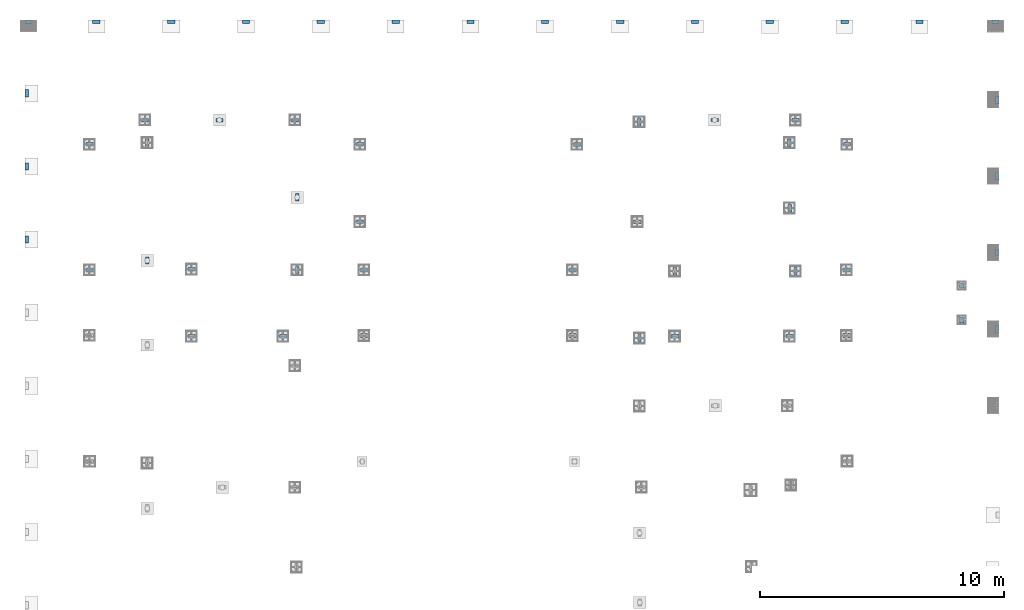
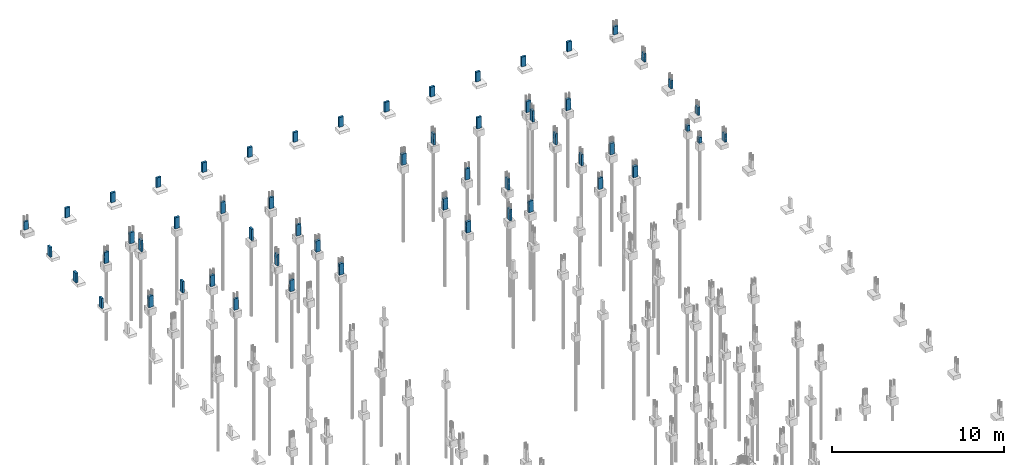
# One storey, part 4 of 119: 56 columns.
"""IFC4 building model written with IfcOpenShell, lengths in centimetres."""

from ifc_helpers import new_model, si_unit, derived_unit, frame, origin_with_axes, origin_2d_with_axis, place, context, project, spatial, rectangle, extrude, material, element, save


model = new_model("IFC4")

# Units and contexts
model_context = context("Model", 3, precision=1e-05, world=origin_with_axes(), identifier="Body")
ifc_project = project(units=[si_unit("LENGTHUNIT", "METRE", prefix="CENTI"), si_unit("VOLUMEUNIT", "CUBIC_METRE"), si_unit("AREAUNIT", "SQUARE_METRE"), si_unit("POWERUNIT", "WATT"), si_unit("LUMINOUSFLUXUNIT", "LUMEN"), si_unit("ELECTRICCURRENTUNIT", "AMPERE"), si_unit("PRESSUREUNIT", "PASCAL", prefix="KILO"), si_unit("MASSUNIT", "GRAM", prefix="KILO"), si_unit("PLANEANGLEUNIT", "RADIAN"), derived_unit("VOLUMETRICFLOWRATEUNIT", [(si_unit("LENGTHUNIT", "METRE"), 3), (si_unit("TIMEUNIT", "SECOND"), -1)])], contexts=[model_context])

# Site, building, storey
site_placement = place(None, frame((-4000.0, 0.0, 0.0), z_axis=(0.0, 0.0, 1.0), x_axis=(1.0, 0.0, 0.0)))
site = spatial("IfcSite", under=ifc_project, at=site_placement, Name="PADRÃO")
building_placement = place(site_placement, frame((0.0, 0.0, -14.0)))
building = spatial("IfcBuilding", under=site, at=building_placement, Name="CRECHE PRÉ-ESCOLA TIPO 2")
storey_placement = place(building_placement, origin_with_axes())
storey = spatial("IfcBuildingStorey", under=building, at=storey_placement, Name="FUNDAÇÃO", CompositionType="ELEMENT", Elevation=-14.0)

# Columns
ifc_material = material(Name="Concreto")
column_1_placement = place(storey_placement, frame((16.5, 4488.5, 0.0), z_axis=(0.0, 0.0, 1.0), x_axis=(1.0, 0.0, 0.0)))
element("IfcColumn", 1, at=column_1_placement, inside=storey, material=ifc_material, Name="P1", context=model_context, shape_type="SolidModel", body=[
    extrude(rectangle(XDim=14.0, YDim=30.0, at=origin_2d_with_axis()), frame((0.0, 0.0, -59.0), z_axis=(0.0, 0.0, 1.0), x_axis=(0.0, -1.0, 0.0)), (0.0, 0.0, 1.0), 59.0),
])
for number, where, z_axis, x_axis, name in (
    (2, (2751.0, 4488.5, 0.0), (0.0, 0.0, 1.0), (1.0, 0.0, 0.0), "P10"),
    (3, (3058.0, 4488.12, 0.0), (0.0, 0.0, 1.0), (1.0, 0.0, 0.0), "P11"),
    (4, (3365.0, 4488.0, 0.0), (0.0, 0.0, 1.0), (1.0, 0.0, 0.0), "P12"),
    (5, (3672.0, 4488.0, 0.0), (0.0, 0.0, 1.0), (1.0, 0.0, 0.0), "P13"),
):
    element("IfcColumn", number, at=place(storey_placement, frame(where, z_axis=z_axis, x_axis=x_axis)), inside=storey, material=ifc_material, Name=name, context=model_context, shape_type="SolidModel", body=[
        extrude(rectangle(XDim=14.0, YDim=30.0, at=origin_2d_with_axis()), frame((0.0, 0.0, -69.0), z_axis=(0.0, 0.0, 1.0), x_axis=(0.0, -1.0, 0.0)), (0.0, 0.0, 1.0), 69.0),
    ])
column_2_placement = place(storey_placement, frame((3984.0, 4488.0, 0.0), z_axis=(0.0, 0.0, 1.0), x_axis=(1.0, 0.0, 0.0)))
element("IfcColumn", 6, at=column_2_placement, inside=storey, material=ifc_material, Name="P14", context=model_context, shape_type="SolidModel", body=[
    extrude(rectangle(XDim=14.0, YDim=30.0, at=origin_2d_with_axis()), frame((0.0, 0.0, -59.0), z_axis=(0.0, 0.0, 1.0), x_axis=(0.0, -1.0, 0.0)), (0.0, 0.0, 1.0), 59.0),
])
column_3_placement = place(storey_placement, frame((8.5, 4194.5, 0.0), z_axis=(0.0, 0.0, 1.0), x_axis=(1.0, 0.0, 0.0)))
element("IfcColumn", 7, at=column_3_placement, inside=storey, material=ifc_material, Name="P15", context=model_context, shape_type="SolidModel", body=[
    extrude(rectangle(XDim=14.0, YDim=30.0, at=origin_2d_with_axis()), frame((0.0, 0.0, -69.0), z_axis=(0.0, 0.0, 1.0), x_axis=(1.0, 0.0, 0.0)), (0.0, 0.0, 1.0), 69.0),
])
column_4_placement = place(storey_placement, frame((3992.0, 4168.5, 0.0), z_axis=(0.0, 0.0, 1.0), x_axis=(1.0, 0.0, 0.0)))
element("IfcColumn", 8, at=column_4_placement, inside=storey, material=ifc_material, Name="P16", context=model_context, shape_type="SolidModel", body=[
    extrude(rectangle(XDim=14.0, YDim=30.0, at=origin_2d_with_axis()), frame((0.0, 0.0, -59.0), z_axis=(0.0, 0.0, 1.0), x_axis=(-1.0, 0.0, 0.0)), (0.0, 0.0, 1.0), 59.0),
])
column_5_placement = place(storey_placement, frame((494.67, 4085.0, 0.0), z_axis=(0.0, 0.0, 1.0), x_axis=(1.0, 0.0, 0.0)))
element("IfcColumn", 9, at=column_5_placement, inside=storey, material=ifc_material, Name="P17", context=model_context, shape_type="SolidModel", body=[
    extrude(rectangle(XDim=14.0, YDim=30.0, at=origin_2d_with_axis()), frame((0.0, 0.0, -80.0), z_axis=(0.0, 0.0, 1.0), x_axis=(0.0, 1.0, 0.0)), (0.0, 0.0, 1.0), 80.0),
])
for number, where, z_axis, x_axis, name in (
    (10, (799.85, 4085.0, 0.0), (0.0, 0.0, 1.0), (1.0, 0.0, 0.0), "P18"),
    (11, (1109.71, 4085.0, 0.0), (0.0, 0.0, 1.0), (1.0, 0.0, 0.0), "P19"),
):
    element("IfcColumn", number, at=place(storey_placement, frame(where, z_axis=z_axis, x_axis=x_axis)), inside=storey, material=ifc_material, Name=name, context=model_context, shape_type="SolidModel", body=[
        extrude(rectangle(XDim=14.0, YDim=30.0, at=origin_2d_with_axis()), frame((0.0, 0.0, -80.0), z_axis=(0.0, 0.0, 1.0), x_axis=(0.0, -1.0, 0.0)), (0.0, 0.0, 1.0), 80.0),
    ])
column_6_placement = place(storey_placement, frame((295.0, 4488.5, 0.0), z_axis=(0.0, 0.0, 1.0), x_axis=(1.0, 0.0, 0.0)))
element("IfcColumn", 12, at=column_6_placement, inside=storey, material=ifc_material, Name="P2", context=model_context, shape_type="SolidModel", body=[
    extrude(rectangle(XDim=14.0, YDim=30.0, at=origin_2d_with_axis()), frame((0.0, 0.0, -69.0), z_axis=(0.0, 0.0, 1.0), x_axis=(0.0, -1.0, 0.0)), (0.0, 0.0, 1.0), 69.0),
])
column_7_placement = place(storey_placement, frame((2522.5, 4077.02, 0.0), z_axis=(0.0, 0.0, 1.0), x_axis=(1.0, 0.0, 0.0)))
element("IfcColumn", 13, at=column_7_placement, inside=storey, material=ifc_material, Name="P20", context=model_context, shape_type="SolidModel", body=[
    extrude(rectangle(XDim=14.0, YDim=30.0, at=origin_2d_with_axis()), frame((0.0, 0.0, -80.0), z_axis=(0.0, 0.0, 1.0), x_axis=(1.0, 0.0, 0.0)), (0.0, 0.0, 1.0), 80.0),
])
for number, where, z_axis, x_axis, name in (
    (14, (2831.98, 4085.02, 0.0), (0.0, 0.0, 1.0), (1.0, 0.0, 0.0), "P21"),
    (15, (3163.5, 4084.02, 0.0), (0.0, 0.0, 1.0), (1.0, 0.0, 0.0), "P22"),
    (16, (267.0, 3985.0, 0.0), (0.0, 0.0, 1.0), (1.0, 0.0, 0.0), "P23"),
):
    element("IfcColumn", number, at=place(storey_placement, frame(where, z_axis=z_axis, x_axis=x_axis)), inside=storey, material=ifc_material, Name=name, context=model_context, shape_type="SolidModel", body=[
        extrude(rectangle(XDim=14.0, YDim=30.0, at=origin_2d_with_axis()), frame((0.0, 0.0, -80.0), z_axis=(0.0, 0.0, 1.0), x_axis=(0.0, -1.0, 0.0)), (0.0, 0.0, 1.0), 80.0),
    ])
column_8_placement = place(storey_placement, frame((503.67, 3991.5, 0.0), z_axis=(0.0, 0.0, 1.0), x_axis=(1.0, 0.0, 0.0)))
element("IfcColumn", 17, at=column_8_placement, inside=storey, material=ifc_material, Name="P24", context=model_context, shape_type="SolidModel", body=[
    extrude(rectangle(XDim=14.0, YDim=30.0, at=origin_2d_with_axis()), frame((0.0, 0.0, -80.0), z_axis=(0.0, 0.0, 1.0), x_axis=(1.0, 0.0, 0.0)), (0.0, 0.0, 1.0), 80.0),
])
column_9_placement = place(storey_placement, frame((1376.84, 3985.0, 0.0), z_axis=(0.0, 0.0, 1.0), x_axis=(1.0, 0.0, 0.0)))
element("IfcColumn", 18, at=column_9_placement, inside=storey, material=ifc_material, Name="P25", context=model_context, shape_type="SolidModel", body=[
    extrude(rectangle(XDim=14.0, YDim=30.0, at=origin_2d_with_axis()), frame((0.0, 0.0, -80.0), z_axis=(0.0, 0.0, 1.0), x_axis=(0.0, -1.0, 0.0)), (0.0, 0.0, 1.0), 80.0),
])
column_10_placement = place(storey_placement, frame((2266.76, 3985.0, 0.0), z_axis=(0.0, 0.0, 1.0), x_axis=(1.0, 0.0, 0.0)))
element("IfcColumn", 19, at=column_10_placement, inside=storey, material=ifc_material, Name="P26", context=model_context, shape_type="SolidModel", body=[
    extrude(rectangle(XDim=17.0, YDim=30.0, at=origin_2d_with_axis()), frame((0.0, 0.0, -80.0), z_axis=(0.0, 0.0, 1.0), x_axis=(0.0, -1.0, 0.0)), (0.0, 0.0, 1.0), 80.0),
])
column_11_placement = place(storey_placement, frame((3138.5, 3991.51, 0.0), z_axis=(0.0, 0.0, 1.0), x_axis=(1.0, 0.0, 0.0)))
element("IfcColumn", 20, at=column_11_placement, inside=storey, material=ifc_material, Name="P27", context=model_context, shape_type="SolidModel", body=[
    extrude(rectangle(XDim=14.0, YDim=30.0, at=origin_2d_with_axis()), frame((0.0, 0.0, -80.0), z_axis=(0.0, 0.0, 1.0), x_axis=(1.0, 0.0, 0.0)), (0.0, 0.0, 1.0), 80.0),
])
column_12_placement = place(storey_placement, frame((3375.0, 3985.01, 0.0), z_axis=(0.0, 0.0, 1.0), x_axis=(1.0, 0.0, 0.0)))
element("IfcColumn", 21, at=column_12_placement, inside=storey, material=ifc_material, Name="P28", context=model_context, shape_type="SolidModel", body=[
    extrude(rectangle(XDim=14.0, YDim=30.0, at=origin_2d_with_axis()), frame((0.0, 0.0, -80.0), z_axis=(0.0, 0.0, 1.0), x_axis=(0.0, -1.0, 0.0)), (0.0, 0.0, 1.0), 80.0),
])
column_13_placement = place(storey_placement, frame((8.5, 3894.5, 0.0), z_axis=(0.0, 0.0, 1.0), x_axis=(1.0, 0.0, 0.0)))
element("IfcColumn", 22, at=column_13_placement, inside=storey, material=ifc_material, Name="P29", context=model_context, shape_type="SolidModel", body=[
    extrude(rectangle(XDim=14.0, YDim=30.0, at=origin_2d_with_axis()), frame((0.0, 0.0, -69.0), z_axis=(0.0, 0.0, 1.0), x_axis=(1.0, 0.0, 0.0)), (0.0, 0.0, 1.0), 69.0),
])
column_14_placement = place(storey_placement, frame((602.0, 4488.45, 0.0), z_axis=(0.0, 0.0, 1.0), x_axis=(1.0, 0.0, 0.0)))
element("IfcColumn", 23, at=column_14_placement, inside=storey, material=ifc_material, Name="P3", context=model_context, shape_type="SolidModel", body=[
    extrude(rectangle(XDim=14.0, YDim=30.0, at=origin_2d_with_axis()), frame((0.0, 0.0, -69.0), z_axis=(0.0, 0.0, 1.0), x_axis=(0.0, -1.0, 0.0)), (0.0, 0.0, 1.0), 69.0),
])
column_15_placement = place(storey_placement, frame((3992.0, 3855.0, 0.0), z_axis=(0.0, 0.0, 1.0), x_axis=(1.0, 0.0, 0.0)))
element("IfcColumn", 24, at=column_15_placement, inside=storey, material=ifc_material, Name="P30", context=model_context, shape_type="SolidModel", body=[
    extrude(rectangle(XDim=14.0, YDim=30.0, at=origin_2d_with_axis()), frame((0.0, 0.0, -59.0), z_axis=(0.0, 0.0, 1.0), x_axis=(-1.0, 0.0, 0.0)), (0.0, 0.0, 1.0), 59.0),
])
for number, where, z_axis, x_axis, name in (
    (25, (1118.72, 3767.78, 0.0), (0.0, 0.0, 1.0), (1.0, 0.0, 0.0), "P31"),
    (26, (3139.43, 3723.26, 0.0), (0.0, 0.0, 1.0), (1.0, 0.0, 0.0), "P32"),
):
    element("IfcColumn", number, at=place(storey_placement, frame(where, z_axis=z_axis, x_axis=x_axis)), inside=storey, material=ifc_material, Name=name, context=model_context, shape_type="SolidModel", body=[
        extrude(rectangle(XDim=14.0, YDim=30.0, at=origin_2d_with_axis()), frame((0.0, 0.0, -80.0), z_axis=(0.0, 0.0, 1.0), x_axis=(1.0, 0.0, 0.0)), (0.0, 0.0, 1.0), 80.0),
    ])
column_16_placement = place(storey_placement, frame((1376.84, 3667.5, 0.0), z_axis=(0.0, 0.0, 1.0), x_axis=(1.0, 0.0, 0.0)))
element("IfcColumn", 27, at=column_16_placement, inside=storey, material=ifc_material, Name="P33", context=model_context, shape_type="SolidModel", body=[
    extrude(rectangle(XDim=14.0, YDim=30.0, at=origin_2d_with_axis()), frame((0.0, 0.0, -80.0), z_axis=(0.0, 0.0, 1.0), x_axis=(0.0, 1.0, 0.0)), (0.0, 0.0, 1.0), 80.0),
])
column_17_placement = place(storey_placement, frame((2514.5, 3667.75, 0.0), z_axis=(0.0, 0.0, 1.0), x_axis=(1.0, 0.0, 0.0)))
element("IfcColumn", 28, at=column_17_placement, inside=storey, material=ifc_material, Name="P34", context=model_context, shape_type="SolidModel", body=[
    extrude(rectangle(XDim=14.0, YDim=30.0, at=origin_2d_with_axis()), frame((0.0, 0.0, -80.0), z_axis=(0.0, 0.0, 1.0), x_axis=(0.0, -1.0, 0.0)), (0.0, 0.0, 1.0), 80.0),
])
column_18_placement = place(storey_placement, frame((8.5, 3594.5, 0.0), z_axis=(0.0, 0.0, 1.0), x_axis=(1.0, 0.0, 0.0)))
element("IfcColumn", 29, at=column_18_placement, inside=storey, material=ifc_material, Name="P35", context=model_context, shape_type="SolidModel", body=[
    extrude(rectangle(XDim=14.0, YDim=30.0, at=origin_2d_with_axis()), frame((0.0, 0.0, -69.0), z_axis=(0.0, 0.0, 1.0), x_axis=(1.0, 0.0, 0.0)), (0.0, 0.0, 1.0), 69.0),
])
column_19_placement = place(storey_placement, frame((267.01, 3470.0, 0.0), z_axis=(0.0, 0.0, 1.0), x_axis=(1.0, 0.0, 0.0)))
element("IfcColumn", 30, at=column_19_placement, inside=storey, material=ifc_material, Name="P36", context=model_context, shape_type="SolidModel", body=[
    extrude(rectangle(XDim=17.0, YDim=30.0, at=origin_2d_with_axis()), frame((0.0, 0.0, -80.0), z_axis=(0.0, 0.0, 1.0), x_axis=(0.0, -1.0, 0.0)), (0.0, 0.0, 1.0), 80.0),
])
column_20_placement = place(storey_placement, frame((503.67, 3508.5, 0.0), z_axis=(0.0, 0.0, 1.0), x_axis=(1.0, 0.0, 0.0)))
element("IfcColumn", 31, at=column_20_placement, inside=storey, material=ifc_material, Name="P37", context=model_context, shape_type="SolidModel", body=[
    extrude(rectangle(XDim=14.0, YDim=30.0, at=origin_2d_with_axis()), frame((0.0, 0.0, -80.0), z_axis=(0.0, 0.0, 1.0), x_axis=(1.0, 0.0, 0.0)), (0.0, 0.0, 1.0), 80.0),
])
column_21_placement = place(storey_placement, frame((3992.0, 3541.5, 0.0), z_axis=(0.0, 0.0, 1.0), x_axis=(1.0, 0.0, 0.0)))
element("IfcColumn", 32, at=column_21_placement, inside=storey, material=ifc_material, Name="P38", context=model_context, shape_type="SolidModel", body=[
    extrude(rectangle(XDim=14.0, YDim=30.0, at=origin_2d_with_axis()), frame((0.0, 0.0, -59.0), z_axis=(0.0, 0.0, 1.0), x_axis=(-1.0, 0.0, 0.0)), (0.0, 0.0, 1.0), 59.0),
])
column_22_placement = place(storey_placement, frame((685.0, 3472.49, 0.0), z_axis=(0.0, 0.0, 1.0), x_axis=(1.0, 0.0, 0.0)))
element("IfcColumn", 33, at=column_22_placement, inside=storey, material=ifc_material, Name="P39", context=model_context, shape_type="SolidModel", body=[
    extrude(rectangle(XDim=14.0, YDim=30.0, at=origin_2d_with_axis()), frame((0.0, 0.0, -80.0), z_axis=(0.0, 0.0, 1.0), x_axis=(0.0, -1.0, 0.0)), (0.0, 0.0, 1.0), 80.0),
])
column_23_placement = place(storey_placement, frame((909.0, 4488.5, 0.0), z_axis=(0.0, 0.0, 1.0), x_axis=(1.0, 0.0, 0.0)))
element("IfcColumn", 34, at=column_23_placement, inside=storey, material=ifc_material, Name="P4", context=model_context, shape_type="SolidModel", body=[
    extrude(rectangle(XDim=14.0, YDim=30.0, at=origin_2d_with_axis()), frame((0.0, 0.0, -69.0), z_axis=(0.0, 0.0, 1.0), x_axis=(0.0, -1.0, 0.0)), (0.0, 0.0, 1.0), 69.0),
])
column_24_placement = place(storey_placement, frame((1118.72, 3470.0, 0.0), z_axis=(0.0, 0.0, 1.0), x_axis=(1.0, 0.0, 0.0)))
element("IfcColumn", 35, at=column_24_placement, inside=storey, material=ifc_material, Name="P40", context=model_context, shape_type="SolidModel", body=[
    extrude(rectangle(XDim=14.0, YDim=30.0, at=origin_2d_with_axis()), frame((0.0, 0.0, -80.0), z_axis=(0.0, 0.0, 1.0), x_axis=(1.0, 0.0, 0.0)), (0.0, 0.0, 1.0), 80.0),
])
for number, where, z_axis, x_axis, name in (
    (36, (1392.84, 3470.02, 0.0), (0.0, 0.0, 1.0), (1.0, 0.0, 0.0), "P41"),
    (37, (2248.76, 3470.02, 0.0), (0.0, 0.0, 1.0), (1.0, 0.0, 0.0), "P42"),
):
    element("IfcColumn", number, at=place(storey_placement, frame(where, z_axis=z_axis, x_axis=x_axis)), inside=storey, material=ifc_material, Name=name, context=model_context, shape_type="SolidModel", body=[
        extrude(rectangle(XDim=17.0, YDim=30.0, at=origin_2d_with_axis()), frame((0.0, 0.0, -80.0), z_axis=(0.0, 0.0, 1.0), x_axis=(0.0, -1.0, 0.0)), (0.0, 0.0, 1.0), 80.0),
    ])
for number, where, z_axis, x_axis, name in (
    (38, (2668.0, 3464.58, 0.0), (0.0, 0.0, 1.0), (1.0, 0.0, 0.0), "P43"),
    (39, (3163.5, 3464.58, 0.0), (0.0, 0.0, 1.0), (1.0, 0.0, 0.0), "P44"),
):
    element("IfcColumn", number, at=place(storey_placement, frame(where, z_axis=z_axis, x_axis=x_axis)), inside=storey, material=ifc_material, Name=name, context=model_context, shape_type="SolidModel", body=[
        extrude(rectangle(XDim=14.0, YDim=30.0, at=origin_2d_with_axis()), frame((0.0, 0.0, -80.0), z_axis=(0.0, 0.0, 1.0), x_axis=(1.0, 0.0, 0.0)), (0.0, 0.0, 1.0), 80.0),
    ])
column_25_placement = place(storey_placement, frame((3372.5, 3470.02, 0.0), z_axis=(0.0, 0.0, 1.0), x_axis=(1.0, 0.0, 0.0)))
element("IfcColumn", 40, at=column_25_placement, inside=storey, material=ifc_material, Name="P45", context=model_context, shape_type="SolidModel", body=[
    extrude(rectangle(XDim=17.0, YDim=30.0, at=origin_2d_with_axis()), frame((0.0, 0.0, -80.0), z_axis=(0.0, 0.0, 1.0), x_axis=(0.0, -1.0, 0.0)), (0.0, 0.0, 1.0), 80.0),
])
column_26_placement = place(storey_placement, frame((685.0, 3197.49, 0.0), z_axis=(0.0, 0.0, 1.0), x_axis=(1.0, 0.0, 0.0)))
element("IfcColumn", 41, at=column_26_placement, inside=storey, material=ifc_material, Name="P49", context=model_context, shape_type="SolidModel", body=[
    extrude(rectangle(XDim=14.0, YDim=30.0, at=origin_2d_with_axis()), frame((0.0, 0.0, -80.0), z_axis=(0.0, 0.0, 1.0), x_axis=(0.0, -1.0, 0.0)), (0.0, 0.0, 1.0), 80.0),
])
column_27_placement = place(storey_placement, frame((1216.0, 4488.5, 0.0), z_axis=(0.0, 0.0, 1.0), x_axis=(1.0, 0.0, 0.0)))
element("IfcColumn", 42, at=column_27_placement, inside=storey, material=ifc_material, Name="P5", context=model_context, shape_type="SolidModel", body=[
    extrude(rectangle(XDim=14.0, YDim=30.0, at=origin_2d_with_axis()), frame((0.0, 0.0, -69.0), z_axis=(0.0, 0.0, 1.0), x_axis=(0.0, -1.0, 0.0)), (0.0, 0.0, 1.0), 69.0),
])
column_28_placement = place(storey_placement, frame((1061.0, 3197.49, 0.0), z_axis=(0.0, 0.0, 1.0), x_axis=(1.0, 0.0, 0.0)))
element("IfcColumn", 43, at=column_28_placement, inside=storey, material=ifc_material, Name="P50", context=model_context, shape_type="SolidModel", body=[
    extrude(rectangle(XDim=14.0, YDim=30.0, at=origin_2d_with_axis()), frame((0.0, 0.0, -80.0), z_axis=(0.0, 0.0, 1.0), x_axis=(0.0, -1.0, 0.0)), (0.0, 0.0, 1.0), 80.0),
])
for number, where, z_axis, x_axis, name in (
    (44, (1393.25, 3200.02, 0.0), (0.0, 0.0, 1.0), (1.0, 0.0, 0.0), "P51"),
    (45, (2248.76, 3200.02, 0.0), (0.0, 0.0, 1.0), (1.0, 0.0, 0.0), "P52"),
):
    element("IfcColumn", number, at=place(storey_placement, frame(where, z_axis=z_axis, x_axis=x_axis)), inside=storey, material=ifc_material, Name=name, context=model_context, shape_type="SolidModel", body=[
        extrude(rectangle(XDim=17.0, YDim=30.0, at=origin_2d_with_axis()), frame((0.0, 0.0, -80.0), z_axis=(0.0, 0.0, 1.0), x_axis=(0.0, -1.0, 0.0)), (0.0, 0.0, 1.0), 80.0),
    ])
column_29_placement = place(storey_placement, frame((2523.5, 3189.52, 0.0), z_axis=(0.0, 0.0, 1.0), x_axis=(1.0, 0.0, 0.0)))
element("IfcColumn", 46, at=column_29_placement, inside=storey, material=ifc_material, Name="P53", context=model_context, shape_type="SolidModel", body=[
    extrude(rectangle(XDim=14.0, YDim=30.0, at=origin_2d_with_axis()), frame((0.0, 0.0, -80.0), z_axis=(0.0, 0.0, 1.0), x_axis=(1.0, 0.0, 0.0)), (0.0, 0.0, 1.0), 80.0),
])
for number, where, z_axis, x_axis, name in (
    (47, (2668.0, 3197.52, 0.0), (0.0, 0.0, 1.0), (1.0, 0.0, 0.0), "P54"),
    (48, (3138.5, 3197.52, 0.0), (0.0, 0.0, 1.0), (1.0, 0.0, 0.0), "P55"),
):
    element("IfcColumn", number, at=place(storey_placement, frame(where, z_axis=z_axis, x_axis=x_axis)), inside=storey, material=ifc_material, Name=name, context=model_context, shape_type="SolidModel", body=[
        extrude(rectangle(XDim=14.0, YDim=30.0, at=origin_2d_with_axis()), frame((0.0, 0.0, -80.0), z_axis=(0.0, 0.0, 1.0), x_axis=(0.0, -1.0, 0.0)), (0.0, 0.0, 1.0), 80.0),
    ])
column_30_placement = place(storey_placement, frame((3372.5, 3200.02, 0.0), z_axis=(0.0, 0.0, 1.0), x_axis=(1.0, 0.0, 0.0)))
element("IfcColumn", 49, at=column_30_placement, inside=storey, material=ifc_material, Name="P56", context=model_context, shape_type="SolidModel", body=[
    extrude(rectangle(XDim=17.0, YDim=30.0, at=origin_2d_with_axis()), frame((0.0, 0.0, -80.0), z_axis=(0.0, 0.0, 1.0), x_axis=(0.0, -1.0, 0.0)), (0.0, 0.0, 1.0), 80.0),
])
column_31_placement = place(storey_placement, frame((3992.0, 3228.0, 0.0), z_axis=(0.0, 0.0, 1.0), x_axis=(1.0, 0.0, 0.0)))
element("IfcColumn", 50, at=column_31_placement, inside=storey, material=ifc_material, Name="P57", context=model_context, shape_type="SolidModel", body=[
    extrude(rectangle(XDim=14.0, YDim=30.0, at=origin_2d_with_axis()), frame((0.0, 0.0, -59.0), z_axis=(0.0, 0.0, 1.0), x_axis=(-1.0, 0.0, 0.0)), (0.0, 0.0, 1.0), 59.0),
])
for number, where, z_axis, x_axis, name in (
    (51, (1523.0, 4488.33, 0.0), (0.0, 0.0, 1.0), (1.0, 0.0, 0.0), "P6"),
    (52, (1830.0, 4488.5, 0.0), (0.0, 0.0, 1.0), (1.0, 0.0, 0.0), "P7"),
    (53, (2135.99, 4488.5, 0.0), (0.0, 0.0, 1.0), (1.0, 0.0, 0.0), "P8"),
    (54, (2444.0, 4488.19, 0.0), (0.0, 0.0, 1.0), (1.0, 0.0, 0.0), "P9"),
):
    element("IfcColumn", number, at=place(storey_placement, frame(where, z_axis=z_axis, x_axis=x_axis)), inside=storey, material=ifc_material, Name=name, context=model_context, shape_type="SolidModel", body=[
        extrude(rectangle(XDim=14.0, YDim=30.0, at=origin_2d_with_axis()), frame((0.0, 0.0, -69.0), z_axis=(0.0, 0.0, 1.0), x_axis=(0.0, -1.0, 0.0)), (0.0, 0.0, 1.0), 69.0),
    ])
for number, where, z_axis, x_axis, name in (
    (55, (3845.84, 3405.02, 0.0), (0.0, 0.0, 1.0), (1.0, 0.0, 0.0), "PM1"),
    (56, (3845.84, 3265.02, 0.0), (0.0, 0.0, 1.0), (1.0, 0.0, 0.0), "PM2"),
):
    element("IfcColumn", number, at=place(storey_placement, frame(where, z_axis=z_axis, x_axis=x_axis)), inside=storey, material=ifc_material, Name=name, context=model_context, shape_type="SolidModel", body=[
        extrude(rectangle(XDim=20.0, YDim=20.0, at=origin_2d_with_axis()), frame((0.0, 0.0, -40.0), z_axis=(0.0, 0.0, 1.0), x_axis=(0.0, -1.0, 0.0)), (0.0, 0.0, 1.0), 40.0),
    ])

save(model, "model.ifc")
